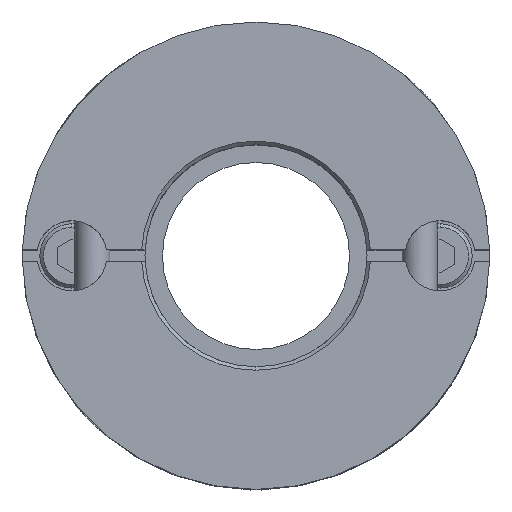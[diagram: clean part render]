
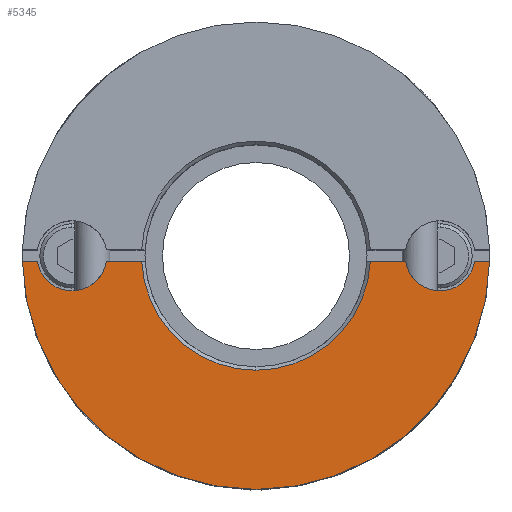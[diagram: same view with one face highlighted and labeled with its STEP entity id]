
A CAD part, top view. The second image highlights one B-rep face of the part: STEP entity #5345.
In plain terms, the highlighted planar face has unit normal (0, 0, 1).
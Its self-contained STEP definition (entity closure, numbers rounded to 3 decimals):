
#2002=CARTESIAN_POINT('',(0.,-20.0,15.6));
#2003=VERTEX_POINT('',#2002);
#2010=CARTESIAN_POINT('',(-19.994,-0.5,15.6));
#2011=VERTEX_POINT('',#2010);
#2012=CARTESIAN_POINT('',(0.,0.,15.6));
#2013=DIRECTION('',(0.0,0.0,-1.0));
#2014=DIRECTION('',(0.0,1.0,0.0));
#2015=AXIS2_PLACEMENT_3D('',#2012,#2013,#2014);
#2016=CIRCLE('',#2015,20.0);
#2017=EDGE_CURVE('',#2003,#2011,#2016,.T.);
#2408=CARTESIAN_POINT('',(0.,-9.8,15.6));
#2409=VERTEX_POINT('',#2408);
#2417=CARTESIAN_POINT('',(-9.787,-0.5,15.6));
#2418=VERTEX_POINT('',#2417);
#2432=CARTESIAN_POINT('',(0.,0.,15.6));
#2433=DIRECTION('',(0.0,0.0,1.0));
#2434=DIRECTION('',(0.0,-1.0,0.0));
#2435=AXIS2_PLACEMENT_3D('',#2432,#2433,#2434);
#2436=CIRCLE('',#2435,9.8);
#2437=EDGE_CURVE('',#2418,#2409,#2436,.T.);
#2553=CARTESIAN_POINT('',(15.75,-3.,15.6));
#2554=VERTEX_POINT('',#2553);
#2632=CARTESIAN_POINT('',(12.792,-0.5,15.6));
#2633=VERTEX_POINT('',#2632);
#2640=CARTESIAN_POINT('',(15.75,0.,15.6));
#2641=DIRECTION('',(0.0,0.0,-1.0));
#2642=DIRECTION('',(0.0,1.0,0.0));
#2643=AXIS2_PLACEMENT_3D('',#2640,#2641,#2642);
#2644=CIRCLE('',#2643,3.0);
#2645=EDGE_CURVE('',#2554,#2633,#2644,.T.);
#2699=CARTESIAN_POINT('',(-15.75,-3.,15.6));
#2700=VERTEX_POINT('',#2699);
#2716=CARTESIAN_POINT('',(-18.708,-0.5,15.6));
#2717=VERTEX_POINT('',#2716);
#2724=CARTESIAN_POINT('',(-15.75,0.,15.6));
#2725=DIRECTION('',(0.0,0.0,-1.0));
#2726=DIRECTION('',(0.0,1.0,0.0));
#2727=AXIS2_PLACEMENT_3D('',#2724,#2725,#2726);
#2728=CIRCLE('',#2727,3.0);
#2729=EDGE_CURVE('',#2700,#2717,#2728,.T.);
#4014=CARTESIAN_POINT('',(9.787,-0.5,15.6));
#4015=VERTEX_POINT('',#4014);
#4029=CARTESIAN_POINT('',(12.792,-0.5,15.6));
#4030=DIRECTION('',(-1.0,0.0,0.0));
#4031=VECTOR('',#4030,3.005);
#4032=LINE('',#4029,#4031);
#4033=EDGE_CURVE('',#2633,#4015,#4032,.T.);
#4281=CARTESIAN_POINT('',(-12.792,-0.5,15.6));
#4282=VERTEX_POINT('',#4281);
#4289=CARTESIAN_POINT('',(-9.787,-0.5,15.6));
#4290=DIRECTION('',(-1.0,0.0,0.0));
#4291=VECTOR('',#4290,3.005);
#4292=LINE('',#4289,#4291);
#4293=EDGE_CURVE('',#2418,#4282,#4292,.T.);
#4928=CARTESIAN_POINT('',(-15.75,0.,15.6));
#4929=DIRECTION('',(0.0,0.0,-1.0));
#4930=DIRECTION('',(0.0,1.0,0.0));
#4931=AXIS2_PLACEMENT_3D('',#4928,#4929,#4930);
#4932=CIRCLE('',#4931,3.0);
#4933=EDGE_CURVE('',#4282,#2700,#4932,.T.);
#4982=CARTESIAN_POINT('',(18.708,-0.5,15.6));
#4983=VERTEX_POINT('',#4982);
#4984=CARTESIAN_POINT('',(15.75,0.,15.6));
#4985=DIRECTION('',(0.0,0.0,-1.0));
#4986=DIRECTION('',(0.0,1.0,0.0));
#4987=AXIS2_PLACEMENT_3D('',#4984,#4985,#4986);
#4988=CIRCLE('',#4987,3.0);
#4989=EDGE_CURVE('',#4983,#2554,#4988,.T.);
#5098=CARTESIAN_POINT('',(-18.708,-0.5,15.6));
#5099=DIRECTION('',(-1.0,0.0,0.0));
#5100=VECTOR('',#5099,1.286);
#5101=LINE('',#5098,#5100);
#5102=EDGE_CURVE('',#2717,#2011,#5101,.T.);
#5220=CARTESIAN_POINT('',(19.994,-0.5,15.6));
#5221=VERTEX_POINT('',#5220);
#5222=CARTESIAN_POINT('',(19.994,-0.5,15.6));
#5223=DIRECTION('',(-1.0,0.0,0.0));
#5224=VECTOR('',#5223,1.286);
#5225=LINE('',#5222,#5224);
#5226=EDGE_CURVE('',#5221,#4983,#5225,.T.);
#5314=CARTESIAN_POINT('',(0.,1.818,15.6));
#5315=DIRECTION('',(0.0,0.0,1.0));
#5316=DIRECTION('',(0.0,1.0,0.0));
#5317=AXIS2_PLACEMENT_3D('',#5314,#5315,#5316);
#5318=PLANE('',#5317);
#5319=ORIENTED_EDGE('',*,*,#4933,.T.);
#5320=ORIENTED_EDGE('',*,*,#2729,.T.);
#5321=ORIENTED_EDGE('',*,*,#5102,.T.);
#5322=ORIENTED_EDGE('',*,*,#2017,.F.);
#5323=CARTESIAN_POINT('',(0.,0.,15.6));
#5324=DIRECTION('',(0.0,0.0,-1.0));
#5325=DIRECTION('',(0.0,1.0,0.0));
#5326=AXIS2_PLACEMENT_3D('',#5323,#5324,#5325);
#5327=CIRCLE('',#5326,20.0);
#5328=EDGE_CURVE('',#5221,#2003,#5327,.T.);
#5329=ORIENTED_EDGE('',*,*,#5328,.F.);
#5330=ORIENTED_EDGE('',*,*,#5226,.T.);
#5331=ORIENTED_EDGE('',*,*,#4989,.T.);
#5332=ORIENTED_EDGE('',*,*,#2645,.T.);
#5333=ORIENTED_EDGE('',*,*,#4033,.T.);
#5334=CARTESIAN_POINT('',(0.,0.,15.6));
#5335=DIRECTION('',(0.0,0.0,1.0));
#5336=DIRECTION('',(0.0,-1.0,0.0));
#5337=AXIS2_PLACEMENT_3D('',#5334,#5335,#5336);
#5338=CIRCLE('',#5337,9.8);
#5339=EDGE_CURVE('',#2409,#4015,#5338,.T.);
#5340=ORIENTED_EDGE('',*,*,#5339,.F.);
#5341=ORIENTED_EDGE('',*,*,#2437,.F.);
#5342=ORIENTED_EDGE('',*,*,#4293,.T.);
#5343=EDGE_LOOP('',(#5319,#5320,#5321,#5322,#5329,#5330,#5331,#5332,#5333,#5340,#5341,#5342));
#5344=FACE_OUTER_BOUND('',#5343,.T.);
#5345=ADVANCED_FACE('',(#5344),#5318,.T.);
